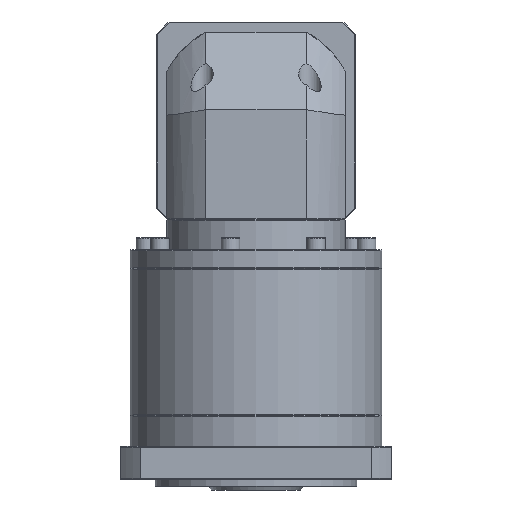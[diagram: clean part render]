
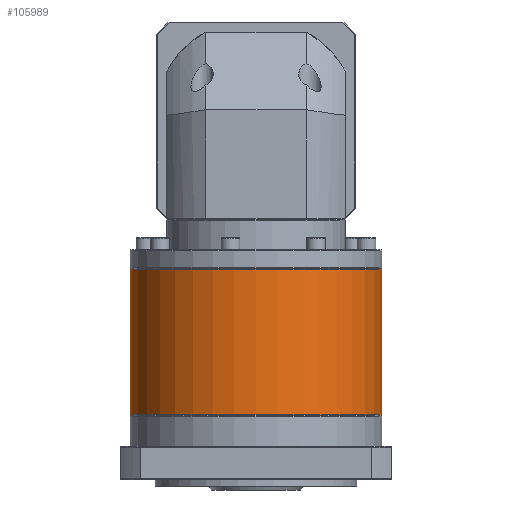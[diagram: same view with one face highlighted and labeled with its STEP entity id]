
A CAD part, front view. The second image highlights one B-rep face of the part: STEP entity #105989.
In plain terms, the highlighted cylindrical face has radius 81 mm (diameter 162 mm), a partial arc.
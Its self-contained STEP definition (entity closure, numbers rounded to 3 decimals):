
#5645 = EDGE_CURVE ( 'NONE', #70544, #22459, #27860, .T. ) ;
#12814 = VERTEX_POINT ( 'NONE', #70118 ) ;
#14889 = EDGE_LOOP ( 'NONE', ( #132720, #47882, #133809, #87168 ) ) ;
#21074 = LINE ( 'NONE', #112647, #130118 ) ;
#22166 = EDGE_CURVE ( 'NONE', #12814, #22459, #21074, .T. ) ;
#22459 = VERTEX_POINT ( 'NONE', #76446 ) ;
#25732 = CARTESIAN_POINT ( 'NONE',  ( -84.134, 84.184, -136.403 ) ) ;
#27860 = CIRCLE ( 'NONE', #78800, 81. ) ;
#47882 = ORIENTED_EDGE ( 'NONE', *, *, #109787, .T. ) ;
#49852 = CARTESIAN_POINT ( 'NONE',  ( -84.134, 84.184, -136.903 ) ) ;
#58486 = DIRECTION ( 'NONE',  ( 0., 0., -1. ) ) ;
#60160 = AXIS2_PLACEMENT_3D ( 'NONE', #25732, #58486, #110285 ) ;
#60481 = DIRECTION ( 'NONE',  ( -1., 0., 0. ) ) ;
#61313 = CARTESIAN_POINT ( 'NONE',  ( -165.134, 84.184, -136.403 ) ) ;
#63487 = CARTESIAN_POINT ( 'NONE',  ( -165.134, 84.184, -136.903 ) ) ;
#68727 = EDGE_CURVE ( 'NONE', #74978, #70544, #107656, .T. ) ;
#70118 = CARTESIAN_POINT ( 'NONE',  ( -3.134, 84.184, -136.903 ) ) ;
#70544 = VERTEX_POINT ( 'NONE', #123659 ) ;
#70552 = DIRECTION ( 'NONE',  ( -1., 0., 0. ) ) ;
#74978 = VERTEX_POINT ( 'NONE', #63487 ) ;
#76446 = CARTESIAN_POINT ( 'NONE',  ( -3.134, 84.184, -230.403 ) ) ;
#78800 = AXIS2_PLACEMENT_3D ( 'NONE', #101063, #101983, #70552 ) ;
#87168 = ORIENTED_EDGE ( 'NONE', *, *, #5645, .T. ) ;
#92296 = DIRECTION ( 'NONE',  ( 0., 0., -1. ) ) ;
#92301 = DIRECTION ( 'NONE',  ( 0., 0., -1. ) ) ;
#92316 = CYLINDRICAL_SURFACE ( 'NONE', #60160, 81. ) ;
#101063 = CARTESIAN_POINT ( 'NONE',  ( -84.134, 84.184, -230.403 ) ) ;
#101983 = DIRECTION ( 'NONE',  ( 0., 0., 1. ) ) ;
#103409 = AXIS2_PLACEMENT_3D ( 'NONE', #49852, #123805, #60481 ) ;
#105989 = ADVANCED_FACE ( 'NONE', ( #128592 ), #92316, .T. ) ;
#107656 = LINE ( 'NONE', #61313, #120916 ) ;
#109787 = EDGE_CURVE ( 'NONE', #12814, #74978, #111671, .T. ) ;
#110285 = DIRECTION ( 'NONE',  ( -1., 0., 0. ) ) ;
#111671 = CIRCLE ( 'NONE', #103409, 81. ) ;
#112647 = CARTESIAN_POINT ( 'NONE',  ( -3.134, 84.184, -136.403 ) ) ;
#120916 = VECTOR ( 'NONE', #92301, 1000. ) ;
#123659 = CARTESIAN_POINT ( 'NONE',  ( -165.134, 84.184, -230.403 ) ) ;
#123805 = DIRECTION ( 'NONE',  ( 0., 0., -1. ) ) ;
#128592 = FACE_OUTER_BOUND ( 'NONE', #14889, .T. ) ;
#130118 = VECTOR ( 'NONE', #92296, 1000. ) ;
#132720 = ORIENTED_EDGE ( 'NONE', *, *, #22166, .F. ) ;
#133809 = ORIENTED_EDGE ( 'NONE', *, *, #68727, .T. ) ;
